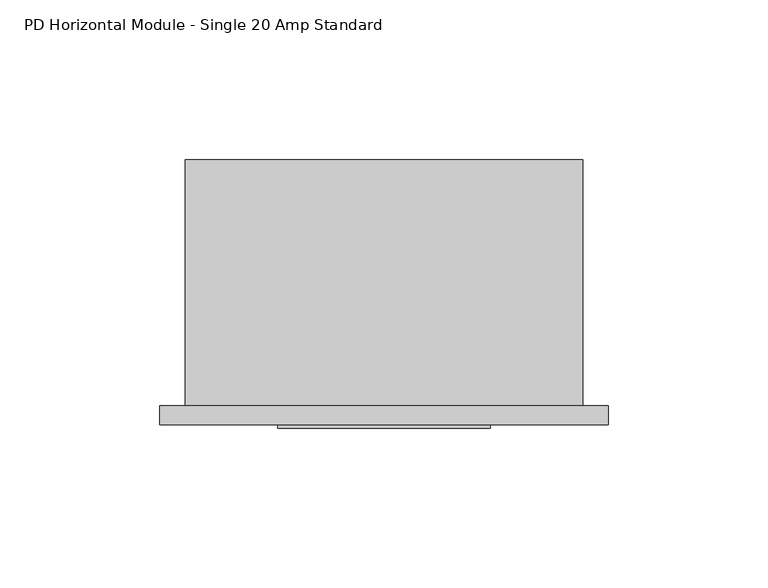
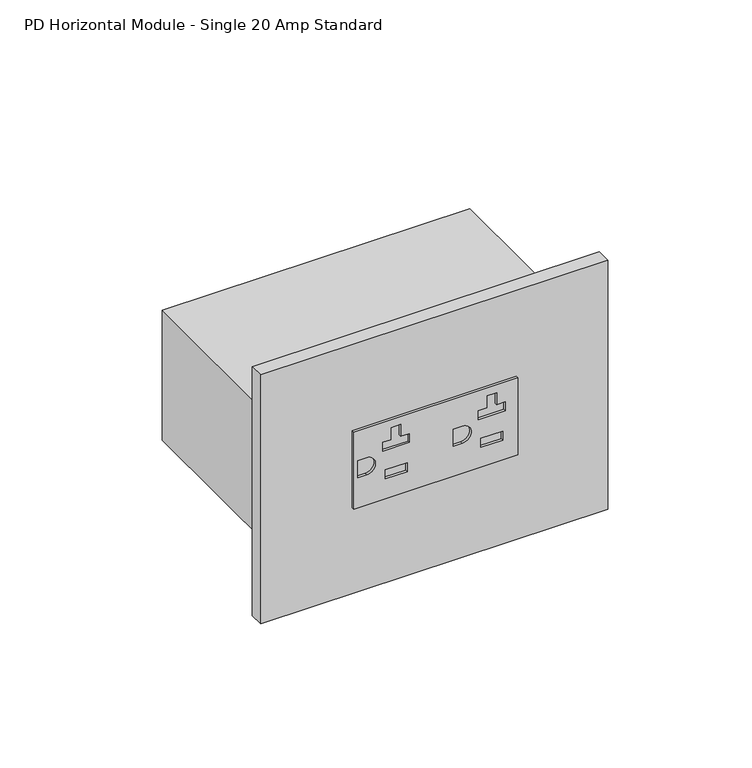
"""IFC4 building model written with IfcOpenShell, lengths in millimetres: proxy geometry, Electrical-Teknion-EPDHS_Horizontal_Power_Data_Single-R2019 : PD Horizontal Module - Single 20 Amp Standard."""

import ifcopenshell
import ifcopenshell.guid

model = None  # the IFC model being written
_history = None  # IfcOwnerHistory: only IFC2X3 demands one
_inside = {}  # id of a spatial element -> (the spatial element, [elements in it])
_under = {}  # id of a project, library or spatial element -> (it, [spatial elements below it])
_declared = {}  # id of a project -> (the project, [libraries it declares])
_typed = {}  # id of a type object -> (the type object, [elements of that type])
_made_of = {}  # id of a material, layer set ... -> (it, [elements and type objects made of it])


def new_model(schema):
    """Start an empty IFC model of exactly this schema.

    Asked for "IFC4X3", IfcOpenShell would pick the latest addendum, in which some entities
    have other attributes; the version numbers below select the first issue.
    IFC2X3 requires an IfcOwnerHistory on every rooted entity: one is made here for all.
    """
    global model, _history
    if schema == "IFC4X3":
        model = ifcopenshell.file(schema_version=(4, 3, 0, 0))
    else:
        model = ifcopenshell.file(schema=schema)
    _inside.clear()
    _under.clear()
    _declared.clear()
    _typed.clear()
    _made_of.clear()
    _history = None
    if model.schema == "IFC2X3":
        org = make("IfcOrganization", Name="unknown")
        user = make(
            "IfcPersonAndOrganization",
            ThePerson=make("IfcPerson", FamilyName="unknown"),
            TheOrganization=org,
        )
        app = make(
            "IfcApplication",
            ApplicationDeveloper=org,
            Version="unknown",
            ApplicationFullName="unknown",
            ApplicationIdentifier="unknown",
        )
        _history = make(
            "IfcOwnerHistory",
            OwningUser=user,
            OwningApplication=app,
            ChangeAction="ADDED",
            CreationDate=0,
        )
    return model


def make(cls, **values):
    """One entity of the class cls with the attributes given. An attribute that is None is left unset."""
    return model.create_entity(
        cls, **{name: value for name, value in values.items() if value is not None}
    )


def rooted(cls, **values):
    """An entity with a GlobalId (a new one), such as an element, a storey or a relation."""
    return make(cls, GlobalId=ifcopenshell.guid.new(), OwnerHistory=_history, **values)


def si_unit(unit_type, name, prefix=None):
    """IfcSIUnit, for example si_unit("LENGTHUNIT", "METRE", prefix="MILLI")."""
    return make("IfcSIUnit", UnitType=unit_type, Prefix=prefix, Name=name)


def assignment(units):
    """IfcUnitAssignment: the units of a project."""
    return None if units is None else make("IfcUnitAssignment", Units=units)


def point(xyz):
    """IfcCartesianPoint."""
    return None if xyz is None else make("IfcCartesianPoint", Coordinates=xyz)


def direction(xyz):
    """IfcDirection."""
    return None if xyz is None else make("IfcDirection", DirectionRatios=xyz)


def frame(location, z_axis=None, x_axis=None):
    """IfcAxis2Placement3D, a coordinate frame: its origin and axes. An axis left out is left unset."""
    return make(
        "IfcAxis2Placement3D",
        Location=point(location),
        Axis=direction(z_axis),
        RefDirection=direction(x_axis),
    )


def frame_2d(location, x_axis=None):
    """IfcAxis2Placement2D, a coordinate frame in the plane: its origin and x axis."""
    return make(
        "IfcAxis2Placement2D", Location=point(location), RefDirection=direction(x_axis)
    )


def origin():
    """The frame at (0, 0, 0) with its axes left unset."""
    return frame((0.0, 0.0, 0.0))


def place(relative_to, where):
    """IfcLocalPlacement: puts the frame where relative to a parent placement (None: the world)."""
    return make(
        "IfcLocalPlacement", PlacementRelTo=relative_to, RelativePlacement=where
    )


def context(
    kind, dimensions, precision=None, world=None, true_north=None, identifier=None
):
    """IfcGeometricRepresentationContext, for example the 3D "Model" context."""
    return make(
        "IfcGeometricRepresentationContext",
        ContextIdentifier=identifier,
        ContextType=kind,
        CoordinateSpaceDimension=dimensions,
        Precision=precision,
        WorldCoordinateSystem=world,
        TrueNorth=true_north,
    )


def project(units=None, contexts=None):
    """IfcProject with its units and contexts."""
    return rooted(
        "IfcProject",
        Name="project",
        RepresentationContexts=contexts,
        UnitsInContext=assignment(units),
    )


def spatial(cls, under=None, at=None, **own):
    """A site, building, storey or space (cls), placed at a placement, below another one or the project."""
    s = rooted(cls, ObjectPlacement=at, **own)
    if under is not None:
        _under.setdefault(under.id(), (under, []))[1].append(s)
    return s


def polyline(points):
    """IfcPolyline through the points."""
    return make("IfcPolyline", Points=[point(p) for p in points])


def circle_curve(where, radius):
    """IfcCircle in the frame where."""
    return make("IfcCircle", Position=where, Radius=radius)


def trimmed(basis, trim1, trim2, sense, master):
    """IfcTrimmedCurve: the piece of a basis curve between two trims."""
    return make(
        "IfcTrimmedCurve",
        BasisCurve=basis,
        Trim1=trim1,
        Trim2=trim2,
        SenseAgreement=sense,
        MasterRepresentation=master,
    )


def segment(curve, same_sense, transition):
    """IfcCompositeCurveSegment."""
    return make(
        "IfcCompositeCurveSegment",
        Transition=transition,
        SameSense=same_sense,
        ParentCurve=curve,
    )


def composite_curve(segments, self_intersect=None):
    """IfcCompositeCurve: segments joined end to end."""
    return make("IfcCompositeCurve", Segments=segments, SelfIntersect=self_intersect)


def outline(outer, holes=None, kind="AREA"):
    """IfcArbitraryClosedProfileDef: a profile drawn as a closed curve; with holes, ...WithVoids."""
    if holes is None:
        return make("IfcArbitraryClosedProfileDef", ProfileType=kind, OuterCurve=outer)
    return make(
        "IfcArbitraryProfileDefWithVoids",
        ProfileType=kind,
        OuterCurve=outer,
        InnerCurves=holes,
    )


def extrude(swept, where, along, depth):
    """IfcExtrudedAreaSolid: the profile swept, set in the frame where, extruded along a direction by depth."""
    return make(
        "IfcExtrudedAreaSolid",
        SweptArea=swept,
        Position=where,
        ExtrudedDirection=direction(along),
        Depth=depth,
    )


def shape(context_of_items, identifier, shape_type, items):
    """IfcShapeRepresentation: the items that make up one representation, for example the "Body"."""
    return make(
        "IfcShapeRepresentation",
        ContextOfItems=context_of_items,
        RepresentationIdentifier=identifier,
        RepresentationType=shape_type,
        Items=items,
    )


def source(mapping_origin, context_of_items, identifier, shape_type, items):
    """IfcRepresentationMap: a shape defined once, which mapped items show again and again."""
    return make(
        "IfcRepresentationMap",
        MappingOrigin=mapping_origin,
        MappedRepresentation=shape(context_of_items, identifier, shape_type, items),
    )


def transform(
    local_origin,
    x_axis=None,
    y_axis=None,
    z_axis=None,
    scale=None,
    scale2=None,
    scale3=None,
    uniform=True,
):
    """IfcCartesianTransformationOperator3D, or its non-uniform kind. x_axis, y_axis, z_axis: its Axis1, 2, 3."""
    if uniform:
        return make(
            "IfcCartesianTransformationOperator3D",
            Axis1=direction(x_axis),
            Axis2=direction(y_axis),
            LocalOrigin=point(local_origin),
            Scale=scale,
            Axis3=direction(z_axis),
        )
    return make(
        "IfcCartesianTransformationOperator3DnonUniform",
        Axis1=direction(x_axis),
        Axis2=direction(y_axis),
        LocalOrigin=point(local_origin),
        Scale=scale,
        Axis3=direction(z_axis),
        Scale2=scale2,
        Scale3=scale3,
    )


def mapped(mapping_source, mapping_target):
    """IfcMappedItem: shows the shape of a source again, moved by a transform."""
    return make(
        "IfcMappedItem", MappingSource=mapping_source, MappingTarget=mapping_target
    )


def made_of(thing, what):
    """Note that an element or type object is made of a material, layer set ...; save() writes the relation."""
    if what is not None:
        _made_of.setdefault(what.id(), (what, []))[1].append(thing)
    return thing


def element(
    cls,
    number,
    at=None,
    inside=None,
    cuts=None,
    type_object=None,
    material=None,
    context=None,
    identifier="Body",
    shape_type=None,
    held_by="IfcProductDefinitionShape",
    body=None,
    shapes=None,
    **own,
):
    """One element of the class cls, such as IfcWall. Its Tag is "e" and its number.

    at: its placement. inside: the storey or other place that contains it. cuts: it is an
    opening in that element (IfcRelVoidsElement). A single representation is given by context,
    identifier, shape_type and body (its items); several are given by shapes. held_by: the class
    of the entity that holds the representations. save() writes the other relations.
    """
    e = rooted(cls, Tag="e%d" % number, ObjectPlacement=at, **own)
    if body is not None:
        shapes = [shape(context, identifier, shape_type, body)]
    if shapes is not None:
        e.Representation = make(held_by, Representations=shapes)
    if inside is not None:
        _inside.setdefault(inside.id(), (inside, []))[1].append(e)
    if cuts is not None:
        rooted(
            "IfcRelVoidsElement", RelatingBuildingElement=cuts, RelatedOpeningElement=e
        )
    if type_object is not None:
        _typed.setdefault(type_object.id(), (type_object, []))[1].append(e)
    return made_of(e, material)


def aggregate(whole, parts):
    """IfcRelAggregates: a whole, such as a stair, and the parts it consists of."""
    return rooted("IfcRelAggregates", RelatingObject=whole, RelatedObjects=parts)


def save(model, path):
    """Write the relations noted so far, then the file.

    IfcRelAggregates (storeys below a building ...), IfcRelContainedInSpatialStructure (elements
    in a storey), IfcRelDefinesByType, IfcRelAssociatesMaterial and IfcRelDeclares: one each for
    every whole, place, type object, material and project.
    """
    for whole, parts in _under.values():
        aggregate(whole, parts)
    for where, things in _inside.values():
        rooted(
            "IfcRelContainedInSpatialStructure",
            RelatedElements=things,
            RelatingStructure=where,
        )
    for kind, things in _typed.values():
        rooted("IfcRelDefinesByType", RelatedObjects=things, RelatingType=kind)
    for what, things in _made_of.values():
        rooted("IfcRelAssociatesMaterial", RelatedObjects=things, RelatingMaterial=what)
    for by, libraries in _declared.values():
        rooted("IfcRelDeclares", RelatingContext=by, RelatedDefinitions=libraries)
    model.write(path)


def pd_horizontal_module_single_20_amp_standard_525e48b1(model_context):
    return source(origin(), model_context, "Body", "SweptSolid", [
        extrude(outline(polyline([(821.7027, 95.5294), (854.6973, 95.5294), (854.6973, 28.9814), (821.7027, 28.9814), (821.7027, 95.5294)]), holes=[polyline([(842.3529, 90.3478), (842.3529, 79.5274), (846.1883, 79.5274), (846.1883, 83.0072), (851.2937, 83.0072), (851.2937, 86.868), (846.1883, 86.868), (846.1883, 90.3478), (842.3529, 90.3478)]), polyline([(830.1863, 89.3699), (830.1863, 80.5053), (834.0217, 80.5053), (834.0217, 89.3699), (830.1863, 89.3699)]), composite_curve([segment(polyline([(834.5678, 69.342), (841.8322, 69.342), (841.8322, 72.9742)]), True, "CONTINUOUS"), segment(trimmed(circle_curve(frame_2d((838.2, 72.9742)), 3.6322), [point((841.8322, 72.9742))], [point((834.5678, 72.9742))], True, "CARTESIAN"), True, "CONTINUOUS"), segment(polyline([(834.5678, 72.9742), (834.5678, 69.342)]), True, "CONTINUOUS")], self_intersect=False), polyline([(842.3529, 51.6128), (842.3529, 40.7924), (846.1883, 40.7924), (846.1883, 44.2722), (851.2937, 44.2722), (851.2937, 48.133), (846.1883, 48.133), (846.1883, 51.6128), (842.3529, 51.6128)]), polyline([(830.1863, 50.6349), (830.1863, 41.7703), (834.0217, 41.7703), (834.0217, 50.6349), (830.1863, 50.6349)]), composite_curve([segment(polyline([(834.5678, 30.607), (841.8322, 30.607), (841.8322, 34.2392)]), True, "CONTINUOUS"), segment(trimmed(circle_curve(frame_2d((838.2, 34.2392)), 3.6322), [point((841.8322, 34.2392))], [point((834.5678, 34.2392))], True, "CARTESIAN"), True, "CONTINUOUS"), segment(polyline([(834.5678, 34.2392), (834.5678, 30.607)]), True, "CONTINUOUS")], self_intersect=False)]), frame((0.0, -6.9294746, 0.0), z_axis=(0.0, 1.0, 0.0), x_axis=(0.0, 0.0, 1.0)), (0.0, 0.0, 1.0), 1.0366746),
        extrude(outline(polyline([(-7.9502, 0.0), (132.4102, 0.0), (132.4102, -5.8928), (-7.9502, -5.8928), (-7.9502, 0.0)])), frame((0.0, 0.0, 784.9108), z_axis=(0.0, 0.0, 1.0), x_axis=(1.0, 0.0, 0.0)), (0.0, 0.0, 1.0), 106.5784),
        extrude(outline(polyline([(124.46, 0.0), (0.0, 0.0), (0.0, 77.054), (124.46, 77.054), (124.46, 0.0)])), frame((0.0, 0.0, 810.4124), z_axis=(0.0, 0.0, 1.0), x_axis=(1.0, 0.0, 0.0)), (0.0, 0.0, 1.0), 55.5752),
    ])


if __name__ == "__main__":
    model = new_model("IFC4")
    model_context = context("Model", 3, world=origin())
    ifc_project = project(units=[si_unit("LENGTHUNIT", "METRE", prefix="MILLI")], contexts=[model_context])
    site = spatial("IfcSite", under=ifc_project)
    building = spatial("IfcBuilding", under=site)
    placement = place(None, origin())
    pd_horizontal_module_single_20_amp_standard_shape = pd_horizontal_module_single_20_amp_standard_525e48b1(model_context)
    element("IfcBuildingElementProxy", 1, Name="Electrical-Teknion-EPDHS_Horizontal_Power_Data_Single-R2019 : PD Horizontal Module - Single 20 Amp Standard", ObjectType="Electrical-Teknion-EPDHS_Horizontal_Power_Data_Single-R2019 : PD Horizontal Module - Single 20 Amp Standard", at=placement, inside=building, context=model_context, shape_type="MappedRepresentation", body=[
        mapped(pd_horizontal_module_single_20_amp_standard_shape, transform((0.0, 0.0, 0.0), x_axis=(1.0, 0.0, 0.0), y_axis=(0.0, 1.0, 0.0), z_axis=(0.0, 0.0, 1.0))),
    ])
    save(model, "model.ifc")
